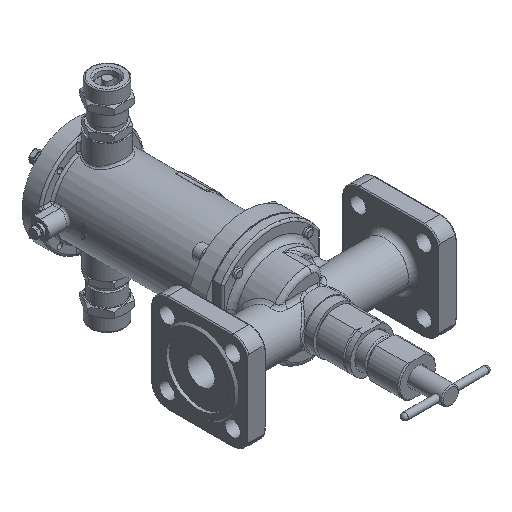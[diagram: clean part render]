
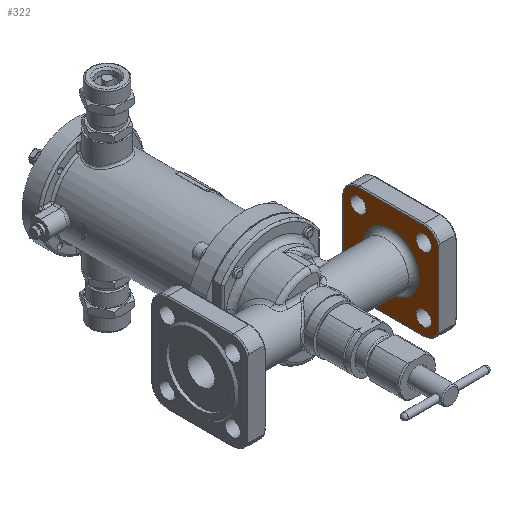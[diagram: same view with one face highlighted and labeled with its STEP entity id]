
A CAD part, isometric view. The second image highlights one B-rep face of the part: STEP entity #322.
In plain terms, the highlighted planar face has unit normal (-1, 0, 0).
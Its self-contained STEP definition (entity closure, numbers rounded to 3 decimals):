
#322=ADVANCED_FACE('',(#8233,#8235,#8237,#8239,#8241,#8243),#8245,.T.);
#8233=FACE_BOUND('',#8234,.T.);
#8234=EDGE_LOOP('',(#21989));
#8235=FACE_BOUND('',#8236,.T.);
#8236=EDGE_LOOP('',(#21990));
#8237=FACE_BOUND('',#8238,.T.);
#8238=EDGE_LOOP('',(#21991));
#8239=FACE_BOUND('',#8240,.T.);
#8240=EDGE_LOOP('',(#21992));
#8241=FACE_BOUND('',#8242,.T.);
#8242=EDGE_LOOP('',(#21993));
#8243=FACE_OUTER_BOUND('',#8244,.T.);
#8244=EDGE_LOOP('',(#21994,#21995,#21996,#21997,#21998,#21999,#22000,#22001));
#8245=PLANE('',#8246);
#8246=AXIS2_PLACEMENT_3D('',#8247,#8248,#8249);
#8247=CARTESIAN_POINT('',(80.,0.,-0.));
#8248=DIRECTION('',(-1.,0.,0.));
#8249=DIRECTION('',(0.,1.,0.));
#21989=ORIENTED_EDGE('',*,*,#33305,.F.);
#21990=ORIENTED_EDGE('',*,*,#33410,.T.);
#21991=ORIENTED_EDGE('',*,*,#33411,.T.);
#21992=ORIENTED_EDGE('',*,*,#33412,.T.);
#21993=ORIENTED_EDGE('',*,*,#33413,.T.);
#21994=ORIENTED_EDGE('',*,*,#33414,.T.);
#21995=ORIENTED_EDGE('',*,*,#33415,.T.);
#21996=ORIENTED_EDGE('',*,*,#33416,.T.);
#21997=ORIENTED_EDGE('',*,*,#33417,.T.);
#21998=ORIENTED_EDGE('',*,*,#33418,.T.);
#21999=ORIENTED_EDGE('',*,*,#33419,.T.);
#22000=ORIENTED_EDGE('',*,*,#33420,.T.);
#22001=ORIENTED_EDGE('',*,*,#33421,.T.);
#33305=EDGE_CURVE('',#38445,#38445,#38447,.T.);
#33410=EDGE_CURVE('',#38614,#38614,#38615,.T.);
#33411=EDGE_CURVE('',#38616,#38616,#38617,.T.);
#33412=EDGE_CURVE('',#38618,#38618,#38619,.T.);
#33413=EDGE_CURVE('',#38620,#38620,#38621,.T.);
#33414=EDGE_CURVE('',#38622,#38623,#38624,.F.);
#33415=EDGE_CURVE('',#38623,#38625,#38626,.F.);
#33416=EDGE_CURVE('',#38625,#38627,#38628,.T.);
#33417=EDGE_CURVE('',#38627,#38629,#38630,.F.);
#33418=EDGE_CURVE('',#38629,#38631,#38632,.T.);
#33419=EDGE_CURVE('',#38631,#38633,#38634,.F.);
#33420=EDGE_CURVE('',#38633,#38635,#38636,.T.);
#33421=EDGE_CURVE('',#38635,#38622,#38637,.F.);
#38445=VERTEX_POINT('',#49955);
#38447=CIRCLE('',#49960,26.);
#38614=VERTEX_POINT('',#50919);
#38615=CIRCLE('',#50920,7.);
#38616=VERTEX_POINT('',#50924);
#38617=CIRCLE('',#50925,7.);
#38618=VERTEX_POINT('',#50929);
#38619=CIRCLE('',#50930,7.);
#38620=VERTEX_POINT('',#50934);
#38621=CIRCLE('',#50935,7.);
#38622=VERTEX_POINT('',#50939);
#38623=VERTEX_POINT('',#50940);
#38624=LINE('',#50941,#50942);
#38625=VERTEX_POINT('',#50944);
#38626=CIRCLE('',#50945,14.);
#38627=VERTEX_POINT('',#50949);
#38628=LINE('',#50950,#50951);
#38629=VERTEX_POINT('',#50953);
#38630=CIRCLE('',#50954,14.);
#38631=VERTEX_POINT('',#50958);
#38632=LINE('',#50959,#50960);
#38633=VERTEX_POINT('',#50962);
#38634=CIRCLE('',#50963,14.);
#38635=VERTEX_POINT('',#50967);
#38636=LINE('',#50968,#50969);
#38637=CIRCLE('',#50971,14.);
#49955=CARTESIAN_POINT('',(80.,26.,0.));
#49960=AXIS2_PLACEMENT_3D('',#49961,#49962,#49963);
#49961=CARTESIAN_POINT('',(80.,0.,-0.));
#49962=DIRECTION('',(-1.,0.,0.));
#49963=DIRECTION('',(0.,1.,0.));
#50919=CARTESIAN_POINT('',(80.,30.052,37.052));
#50920=AXIS2_PLACEMENT_3D('',#50921,#50922,#50923);
#50921=CARTESIAN_POINT('',(80.,30.052,30.052));
#50922=DIRECTION('',(1.,0.,-0.));
#50923=DIRECTION('',(0.,0.,1.));
#50924=CARTESIAN_POINT('',(80.,-30.052,37.052));
#50925=AXIS2_PLACEMENT_3D('',#50926,#50927,#50928);
#50926=CARTESIAN_POINT('',(80.,-30.052,30.052));
#50927=DIRECTION('',(1.,0.,-0.));
#50928=DIRECTION('',(0.,0.,1.));
#50929=CARTESIAN_POINT('',(80.,-30.052,-23.052));
#50930=AXIS2_PLACEMENT_3D('',#50931,#50932,#50933);
#50931=CARTESIAN_POINT('',(80.,-30.052,-30.052));
#50932=DIRECTION('',(1.,0.,-0.));
#50933=DIRECTION('',(0.,0.,1.));
#50934=CARTESIAN_POINT('',(80.,30.052,-23.052));
#50935=AXIS2_PLACEMENT_3D('',#50936,#50937,#50938);
#50936=CARTESIAN_POINT('',(80.,30.052,-30.052));
#50937=DIRECTION('',(1.,0.,-0.));
#50938=DIRECTION('',(0.,0.,1.));
#50939=CARTESIAN_POINT('',(80.,-44.,-30.));
#50940=CARTESIAN_POINT('',(80.,-44.,30.));
#50941=CARTESIAN_POINT('',(80.,-44.,30.));
#50942=VECTOR('',#50943,1.);
#50943=DIRECTION('',(0.,0.,-1.));
#50944=CARTESIAN_POINT('',(80.,-30.,44.));
#50945=AXIS2_PLACEMENT_3D('',#50946,#50947,#50948);
#50946=CARTESIAN_POINT('',(80.,-30.,30.));
#50947=DIRECTION('',(1.,0.,0.));
#50948=DIRECTION('',(0.,0.,1.));
#50949=CARTESIAN_POINT('',(80.,30.,44.));
#50950=CARTESIAN_POINT('',(80.,-30.,44.));
#50951=VECTOR('',#50952,1.);
#50952=DIRECTION('',(0.,1.,0.));
#50953=CARTESIAN_POINT('',(80.,44.,30.));
#50954=AXIS2_PLACEMENT_3D('',#50955,#50956,#50957);
#50955=CARTESIAN_POINT('',(80.,30.,30.));
#50956=DIRECTION('',(1.,0.,0.));
#50957=DIRECTION('',(0.,1.,0.));
#50958=CARTESIAN_POINT('',(80.,44.,-30.));
#50959=CARTESIAN_POINT('',(80.,44.,30.));
#50960=VECTOR('',#50961,1.);
#50961=DIRECTION('',(0.,0.,-1.));
#50962=CARTESIAN_POINT('',(80.,30.,-44.));
#50963=AXIS2_PLACEMENT_3D('',#50964,#50965,#50966);
#50964=CARTESIAN_POINT('',(80.,30.,-30.));
#50965=DIRECTION('',(1.,0.,0.));
#50966=DIRECTION('',(0.,0.,-1.));
#50967=CARTESIAN_POINT('',(80.,-30.,-44.));
#50968=CARTESIAN_POINT('',(80.,30.,-44.));
#50969=VECTOR('',#50970,1.);
#50970=DIRECTION('',(0.,-1.,0.));
#50971=AXIS2_PLACEMENT_3D('',#50972,#50973,#50974);
#50972=CARTESIAN_POINT('',(80.,-30.,-30.));
#50973=DIRECTION('',(1.,0.,0.));
#50974=DIRECTION('',(0.,-1.,0.));
